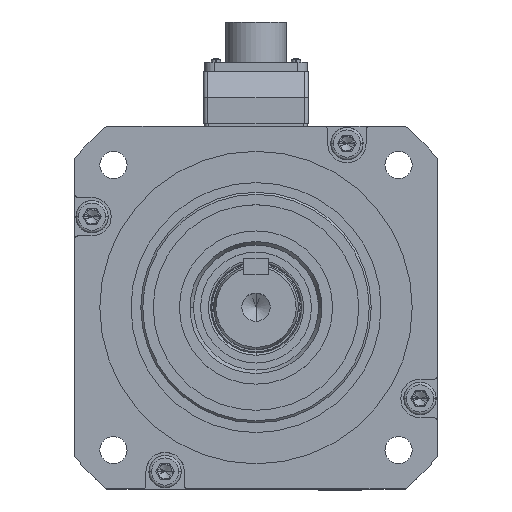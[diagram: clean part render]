
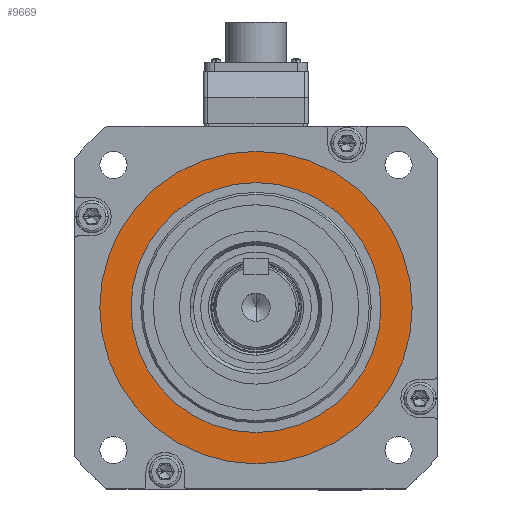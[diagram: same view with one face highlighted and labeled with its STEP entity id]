
A CAD part, top view. The second image highlights one B-rep face of the part: STEP entity #9669.
In plain terms, the highlighted planar face has unit normal (0, 0, 1).
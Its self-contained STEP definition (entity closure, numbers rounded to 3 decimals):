
#1644 = EDGE_LOOP ( 'NONE', ( #15740, #15749 ) ) ;
#2013 = EDGE_LOOP ( 'NONE', ( #15617, #15756 ) ) ;
#8343 = EDGE_CURVE ( 'NONE', #14187, #14180, #45451, .T. ) ;
#8347 = EDGE_CURVE ( 'NONE', #14178, #14174, #45459, .T. ) ;
#8563 = EDGE_CURVE ( 'NONE', #14174, #14178, #45768, .T. ) ;
#8564 = EDGE_CURVE ( 'NONE', #14180, #14187, #45769, .T. ) ;
#9669 = ADVANCED_FACE ( 'NONE', ( #56390, #56400 ), #58820, .T. ) ;
#14174 = VERTEX_POINT ( 'NONE', #62370 ) ;
#14178 = VERTEX_POINT ( 'NONE', #62374 ) ;
#14180 = VERTEX_POINT ( 'NONE', #62376 ) ;
#14187 = VERTEX_POINT ( 'NONE', #62383 ) ;
#15617 = ORIENTED_EDGE ( 'NONE', *, *, #8563, .T. ) ;
#15740 = ORIENTED_EDGE ( 'NONE', *, *, #8343, .F. ) ;
#15749 = ORIENTED_EDGE ( 'NONE', *, *, #8564, .F. ) ;
#15756 = ORIENTED_EDGE ( 'NONE', *, *, #8347, .T. ) ;
#19441 = AXIS2_PLACEMENT_3D ( 'NONE', #44859, #44860, #44861 ) ;
#19443 = AXIS2_PLACEMENT_3D ( 'NONE', #44869, #44870, #44871 ) ;
#19550 = AXIS2_PLACEMENT_3D ( 'NONE', #46608, #46609, #46610 ) ;
#19551 = AXIS2_PLACEMENT_3D ( 'NONE', #46612, #46613, #46614 ) ;
#44859 = CARTESIAN_POINT ( 'NONE',  ( 0., 0., 20. ) ) ;
#44860 = DIRECTION ( 'NONE',  ( 0., 0., 1. ) ) ;
#44861 = DIRECTION ( 'NONE',  ( 1., 0., 0. ) ) ;
#44869 = CARTESIAN_POINT ( 'NONE',  ( 0., 0., 20. ) ) ;
#44870 = DIRECTION ( 'NONE',  ( 0., 0., 1. ) ) ;
#44871 = DIRECTION ( 'NONE',  ( 1., 0., 0. ) ) ;
#45451 = CIRCLE ( 'NONE', #19441, 62. ) ;
#45459 = CIRCLE ( 'NONE', #19443, 77.5 ) ;
#45768 = CIRCLE ( 'NONE', #19550, 77.5 ) ;
#45769 = CIRCLE ( 'NONE', #19551, 62. ) ;
#46608 = CARTESIAN_POINT ( 'NONE',  ( 0., 0., 20. ) ) ;
#46609 = DIRECTION ( 'NONE',  ( 0., 0., 1. ) ) ;
#46610 = DIRECTION ( 'NONE',  ( 1., 0., 0. ) ) ;
#46612 = CARTESIAN_POINT ( 'NONE',  ( 0., 0., 20. ) ) ;
#46613 = DIRECTION ( 'NONE',  ( 0., 0., 1. ) ) ;
#46614 = DIRECTION ( 'NONE',  ( 1., 0., 0. ) ) ;
#56390 = FACE_BOUND ( 'NONE', #1644, .T. ) ;
#56400 = FACE_OUTER_BOUND ( 'NONE', #2013, .T. ) ;
#56990 = AXIS2_PLACEMENT_3D ( 'NONE', #58817, #58822, #58823 ) ;
#58817 = CARTESIAN_POINT ( 'NONE',  ( 0., 0., 20. ) ) ;
#58820 = PLANE ( 'NONE',  #56990 ) ;
#58822 = DIRECTION ( 'NONE',  ( 0., 0., 1. ) ) ;
#58823 = DIRECTION ( 'NONE',  ( 1., 0., 0. ) ) ;
#62370 = CARTESIAN_POINT ( 'NONE',  ( 77.5, 0., 20. ) ) ;
#62374 = CARTESIAN_POINT ( 'NONE',  ( -77.5, 0., 20. ) ) ;
#62376 = CARTESIAN_POINT ( 'NONE',  ( -62., 0., 20. ) ) ;
#62383 = CARTESIAN_POINT ( 'NONE',  ( 62., 0., 20. ) ) ;
